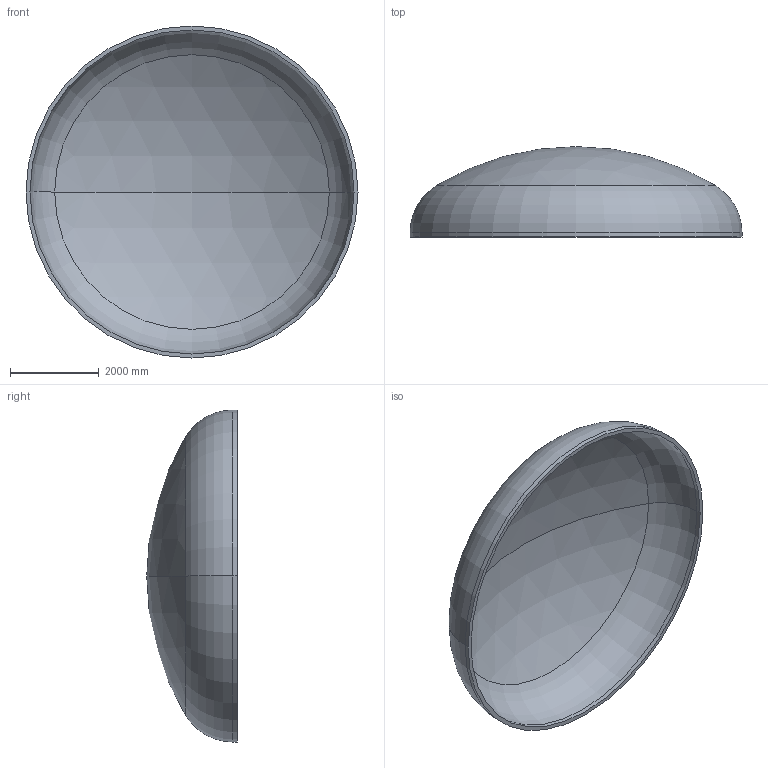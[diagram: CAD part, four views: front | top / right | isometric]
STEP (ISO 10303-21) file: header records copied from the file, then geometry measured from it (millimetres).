
FILE_DESCRIPTION (( 'STEP AP203' ), '1' );
FILE_NAME ('DIN 28013 Korbbogenform_-_Boden DIN 28013 - 7500 x 100 - I - s=90.step', '2016-07-04T10:56:30', ( '' ), ( '' ), 'SwSTEP 2.0', 'SolidWorks 2013', '' );
FILE_SCHEMA (( 'CONFIG_CONTROL_DESIGN' ));
Length unit declared in the file: millimetre
Products named in the file (1): DIN 28013 Korbbogenform_-_Boden DIN 28013 - 7500 x 100 - I - s=90
Bounding box: 7500 x 2042.83 x 7500 mm (x, y, z)
Volume: 5629642340.3 mm3; surface area: 127215207.7 mm2
Topology: 1 solids, 1 shells, 13 faces, 24 edges, 14 vertices
Faces by surface type: torus 4, cylinder 4, sphere 4, plane 1
Entity records: 407 total; most frequent: DIRECTION 72, CARTESIAN_POINT 52, ORIENTED_EDGE 48, AXIS2_PLACEMENT_3D 34, EDGE_CURVE 24, CIRCLE 20, EDGE_LOOP 14, VERTEX_POINT 14
